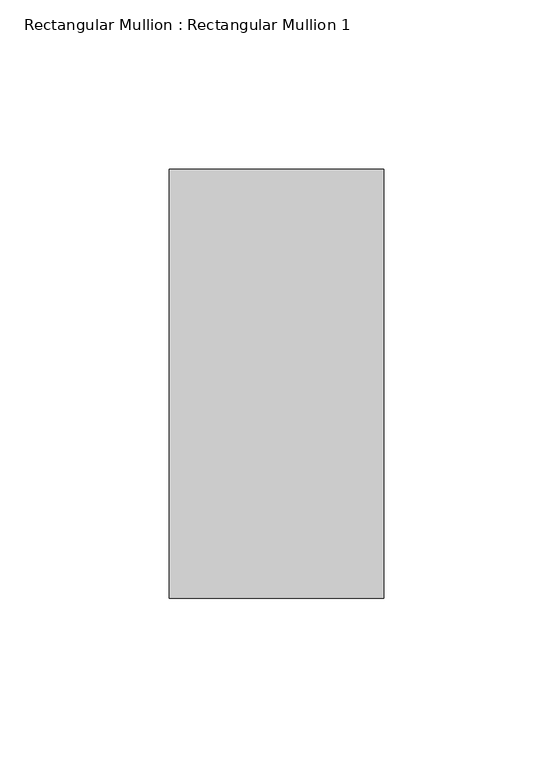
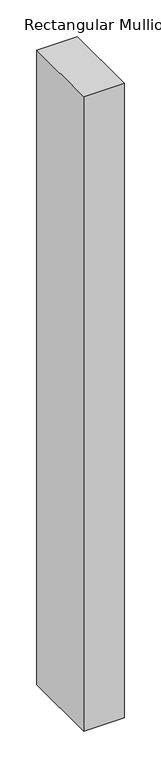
"""IFC4 building model written with IfcOpenShell, lengths in millimetres: member geometry, Rectangular Mullion : Rectangular Mullion 1."""

from ifc_helpers import new_model, si_unit, frame, origin, place, context, project, spatial, polyline, outline, extrude, source, transform, mapped, element, save


def rectangular_mullion_rectangular_mullion_1_bbfe0ad0(model_context):
    return source(origin(), model_context, "Body", "SweptSolid", [
        extrude(outline(polyline([(0.0, 63.5), (0.0, -63.5), (-63.5, -63.5), (-63.5, 63.5), (0.0, 63.5)])), frame((0.0, 0.0, -1052.2857142), z_axis=(0.0, 0.0, 1.0), x_axis=(1.0, 0.0, 0.0)), (0.0, 0.0, 1.0), 1052.2857142),
    ])


if __name__ == "__main__":
    model = new_model("IFC4")
    model_context = context("Model", 3, world=origin())
    ifc_project = project(units=[si_unit("LENGTHUNIT", "METRE", prefix="MILLI")], contexts=[model_context])
    site = spatial("IfcSite", under=ifc_project)
    building = spatial("IfcBuilding", under=site)
    placement = place(None, origin())
    rectangular_mullion_rectangular_mullion_1_shape = rectangular_mullion_rectangular_mullion_1_bbfe0ad0(model_context)
    element("IfcMember", 1, ObjectType="Rectangular Mullion : Rectangular Mullion 1", at=placement, inside=building, context=model_context, shape_type="MappedRepresentation", body=[
        mapped(rectangular_mullion_rectangular_mullion_1_shape, transform((0.0, 0.0, 0.0), x_axis=(1.0, 0.0, 0.0), y_axis=(0.0, 1.0, 0.0), z_axis=(0.0, 0.0, 1.0))),
    ])
    save(model, "model.ifc")
